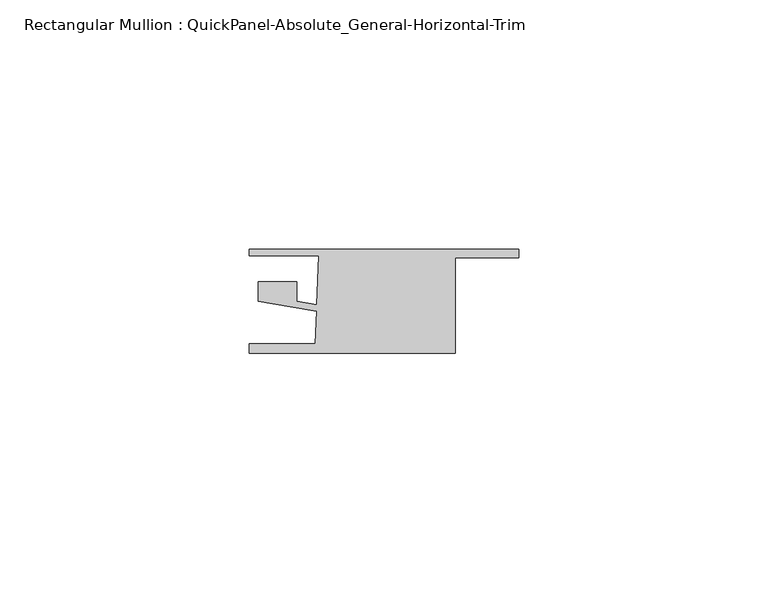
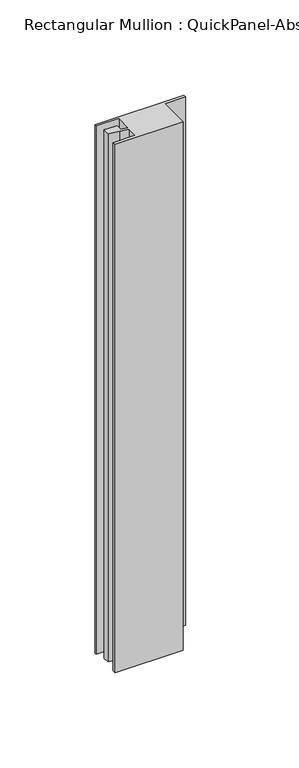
"""IFC4 building model written with IfcOpenShell, lengths in millimetres: member geometry, Rectangular Mullion : QuickPanel-Absolute_General-Horizontal-Trim."""

import ifcopenshell
import ifcopenshell.guid

model = None  # the IFC model being written
_history = None  # IfcOwnerHistory: only IFC2X3 demands one
_inside = {}  # id of a spatial element -> (the spatial element, [elements in it])
_under = {}  # id of a project, library or spatial element -> (it, [spatial elements below it])
_declared = {}  # id of a project -> (the project, [libraries it declares])
_typed = {}  # id of a type object -> (the type object, [elements of that type])
_made_of = {}  # id of a material, layer set ... -> (it, [elements and type objects made of it])


def new_model(schema):
    """Start an empty IFC model of exactly this schema.

    Asked for "IFC4X3", IfcOpenShell would pick the latest addendum, in which some entities
    have other attributes; the version numbers below select the first issue.
    IFC2X3 requires an IfcOwnerHistory on every rooted entity: one is made here for all.
    """
    global model, _history
    if schema == "IFC4X3":
        model = ifcopenshell.file(schema_version=(4, 3, 0, 0))
    else:
        model = ifcopenshell.file(schema=schema)
    _inside.clear()
    _under.clear()
    _declared.clear()
    _typed.clear()
    _made_of.clear()
    _history = None
    if model.schema == "IFC2X3":
        org = make("IfcOrganization", Name="unknown")
        user = make(
            "IfcPersonAndOrganization",
            ThePerson=make("IfcPerson", FamilyName="unknown"),
            TheOrganization=org,
        )
        app = make(
            "IfcApplication",
            ApplicationDeveloper=org,
            Version="unknown",
            ApplicationFullName="unknown",
            ApplicationIdentifier="unknown",
        )
        _history = make(
            "IfcOwnerHistory",
            OwningUser=user,
            OwningApplication=app,
            ChangeAction="ADDED",
            CreationDate=0,
        )
    return model


def make(cls, **values):
    """One entity of the class cls with the attributes given. An attribute that is None is left unset."""
    return model.create_entity(
        cls, **{name: value for name, value in values.items() if value is not None}
    )


def rooted(cls, **values):
    """An entity with a GlobalId (a new one), such as an element, a storey or a relation."""
    return make(cls, GlobalId=ifcopenshell.guid.new(), OwnerHistory=_history, **values)


def si_unit(unit_type, name, prefix=None):
    """IfcSIUnit, for example si_unit("LENGTHUNIT", "METRE", prefix="MILLI")."""
    return make("IfcSIUnit", UnitType=unit_type, Prefix=prefix, Name=name)


def assignment(units):
    """IfcUnitAssignment: the units of a project."""
    return None if units is None else make("IfcUnitAssignment", Units=units)


def point(xyz):
    """IfcCartesianPoint."""
    return None if xyz is None else make("IfcCartesianPoint", Coordinates=xyz)


def direction(xyz):
    """IfcDirection."""
    return None if xyz is None else make("IfcDirection", DirectionRatios=xyz)


def frame(location, z_axis=None, x_axis=None):
    """IfcAxis2Placement3D, a coordinate frame: its origin and axes. An axis left out is left unset."""
    return make(
        "IfcAxis2Placement3D",
        Location=point(location),
        Axis=direction(z_axis),
        RefDirection=direction(x_axis),
    )


def origin():
    """The frame at (0, 0, 0) with its axes left unset."""
    return frame((0.0, 0.0, 0.0))


def place(relative_to, where):
    """IfcLocalPlacement: puts the frame where relative to a parent placement (None: the world)."""
    return make(
        "IfcLocalPlacement", PlacementRelTo=relative_to, RelativePlacement=where
    )


def context(
    kind, dimensions, precision=None, world=None, true_north=None, identifier=None
):
    """IfcGeometricRepresentationContext, for example the 3D "Model" context."""
    return make(
        "IfcGeometricRepresentationContext",
        ContextIdentifier=identifier,
        ContextType=kind,
        CoordinateSpaceDimension=dimensions,
        Precision=precision,
        WorldCoordinateSystem=world,
        TrueNorth=true_north,
    )


def project(units=None, contexts=None):
    """IfcProject with its units and contexts."""
    return rooted(
        "IfcProject",
        Name="project",
        RepresentationContexts=contexts,
        UnitsInContext=assignment(units),
    )


def spatial(cls, under=None, at=None, **own):
    """A site, building, storey or space (cls), placed at a placement, below another one or the project."""
    s = rooted(cls, ObjectPlacement=at, **own)
    if under is not None:
        _under.setdefault(under.id(), (under, []))[1].append(s)
    return s


def polyline(points):
    """IfcPolyline through the points."""
    return make("IfcPolyline", Points=[point(p) for p in points])


def outline(outer, holes=None, kind="AREA"):
    """IfcArbitraryClosedProfileDef: a profile drawn as a closed curve; with holes, ...WithVoids."""
    if holes is None:
        return make("IfcArbitraryClosedProfileDef", ProfileType=kind, OuterCurve=outer)
    return make(
        "IfcArbitraryProfileDefWithVoids",
        ProfileType=kind,
        OuterCurve=outer,
        InnerCurves=holes,
    )


def extrude(swept, where, along, depth):
    """IfcExtrudedAreaSolid: the profile swept, set in the frame where, extruded along a direction by depth."""
    return make(
        "IfcExtrudedAreaSolid",
        SweptArea=swept,
        Position=where,
        ExtrudedDirection=direction(along),
        Depth=depth,
    )


def shape(context_of_items, identifier, shape_type, items):
    """IfcShapeRepresentation: the items that make up one representation, for example the "Body"."""
    return make(
        "IfcShapeRepresentation",
        ContextOfItems=context_of_items,
        RepresentationIdentifier=identifier,
        RepresentationType=shape_type,
        Items=items,
    )


def source(mapping_origin, context_of_items, identifier, shape_type, items):
    """IfcRepresentationMap: a shape defined once, which mapped items show again and again."""
    return make(
        "IfcRepresentationMap",
        MappingOrigin=mapping_origin,
        MappedRepresentation=shape(context_of_items, identifier, shape_type, items),
    )


def transform(
    local_origin,
    x_axis=None,
    y_axis=None,
    z_axis=None,
    scale=None,
    scale2=None,
    scale3=None,
    uniform=True,
):
    """IfcCartesianTransformationOperator3D, or its non-uniform kind. x_axis, y_axis, z_axis: its Axis1, 2, 3."""
    if uniform:
        return make(
            "IfcCartesianTransformationOperator3D",
            Axis1=direction(x_axis),
            Axis2=direction(y_axis),
            LocalOrigin=point(local_origin),
            Scale=scale,
            Axis3=direction(z_axis),
        )
    return make(
        "IfcCartesianTransformationOperator3DnonUniform",
        Axis1=direction(x_axis),
        Axis2=direction(y_axis),
        LocalOrigin=point(local_origin),
        Scale=scale,
        Axis3=direction(z_axis),
        Scale2=scale2,
        Scale3=scale3,
    )


def mapped(mapping_source, mapping_target):
    """IfcMappedItem: shows the shape of a source again, moved by a transform."""
    return make(
        "IfcMappedItem", MappingSource=mapping_source, MappingTarget=mapping_target
    )


def made_of(thing, what):
    """Note that an element or type object is made of a material, layer set ...; save() writes the relation."""
    if what is not None:
        _made_of.setdefault(what.id(), (what, []))[1].append(thing)
    return thing


def element(
    cls,
    number,
    at=None,
    inside=None,
    cuts=None,
    type_object=None,
    material=None,
    context=None,
    identifier="Body",
    shape_type=None,
    held_by="IfcProductDefinitionShape",
    body=None,
    shapes=None,
    **own,
):
    """One element of the class cls, such as IfcWall. Its Tag is "e" and its number.

    at: its placement. inside: the storey or other place that contains it. cuts: it is an
    opening in that element (IfcRelVoidsElement). A single representation is given by context,
    identifier, shape_type and body (its items); several are given by shapes. held_by: the class
    of the entity that holds the representations. save() writes the other relations.
    """
    e = rooted(cls, Tag="e%d" % number, ObjectPlacement=at, **own)
    if body is not None:
        shapes = [shape(context, identifier, shape_type, body)]
    if shapes is not None:
        e.Representation = make(held_by, Representations=shapes)
    if inside is not None:
        _inside.setdefault(inside.id(), (inside, []))[1].append(e)
    if cuts is not None:
        rooted(
            "IfcRelVoidsElement", RelatingBuildingElement=cuts, RelatedOpeningElement=e
        )
    if type_object is not None:
        _typed.setdefault(type_object.id(), (type_object, []))[1].append(e)
    return made_of(e, material)


def aggregate(whole, parts):
    """IfcRelAggregates: a whole, such as a stair, and the parts it consists of."""
    return rooted("IfcRelAggregates", RelatingObject=whole, RelatedObjects=parts)


def save(model, path):
    """Write the relations noted so far, then the file.

    IfcRelAggregates (storeys below a building ...), IfcRelContainedInSpatialStructure (elements
    in a storey), IfcRelDefinesByType, IfcRelAssociatesMaterial and IfcRelDeclares: one each for
    every whole, place, type object, material and project.
    """
    for whole, parts in _under.values():
        aggregate(whole, parts)
    for where, things in _inside.values():
        rooted(
            "IfcRelContainedInSpatialStructure",
            RelatedElements=things,
            RelatingStructure=where,
        )
    for kind, things in _typed.values():
        rooted("IfcRelDefinesByType", RelatedObjects=things, RelatingType=kind)
    for what, things in _made_of.values():
        rooted("IfcRelAssociatesMaterial", RelatedObjects=things, RelatingMaterial=what)
    for by, libraries in _declared.values():
        rooted("IfcRelDeclares", RelatingContext=by, RelatedDefinitions=libraries)
    model.write(path)


def rectangular_mullion_quickpanel_absolute_general_horizontal_9559737d(model_context):
    return source(origin(), model_context, "Body", "SweptSolid", [
        extrude(outline(polyline([(-53.975, -8.6293878), (-53.975, -6.6935423), (-40.7340873, -6.6935423), (-40.5073021, -0.1992641), (-45.757583, 0.7008023), (-52.1929157, 1.8040245), (-52.1929157, 5.6493034), (-44.4481426, 5.6493034), (-44.4481426, 1.7648465), (-40.4625736, 1.0815922), (-40.1186466, 10.9303752), (-53.975, 10.9303752), (-53.975, 12.1803727), (0.0, 12.1803727), (0.0, 10.4985348), (-12.6805114, 10.4985348), (-12.6805114, -8.6293878), (-53.975, -8.6293878)])), frame((0.0, 0.0, -338.388579), z_axis=(0.0, 0.0, 1.0), x_axis=(1.0, 0.0, 0.0)), (0.0, 0.0, 1.0), 338.388579),
    ])


if __name__ == "__main__":
    model = new_model("IFC4")
    model_context = context("Model", 3, world=origin())
    ifc_project = project(units=[si_unit("LENGTHUNIT", "METRE", prefix="MILLI")], contexts=[model_context])
    site = spatial("IfcSite", under=ifc_project)
    building = spatial("IfcBuilding", under=site)
    placement = place(None, origin())
    rectangular_mullion_quickpanel_absolute_general_horizontal_shape = rectangular_mullion_quickpanel_absolute_general_horizontal_9559737d(model_context)
    element("IfcMember", 1, ObjectType="Rectangular Mullion : QuickPanel-Absolute_General-Horizontal-Trim", at=placement, inside=building, context=model_context, shape_type="MappedRepresentation", body=[
        mapped(rectangular_mullion_quickpanel_absolute_general_horizontal_shape, transform((0.0, 0.0, 0.0), x_axis=(1.0, 0.0, 0.0), y_axis=(0.0, 1.0, 0.0), z_axis=(0.0, 0.0, 1.0))),
    ])
    save(model, "model.ifc")
